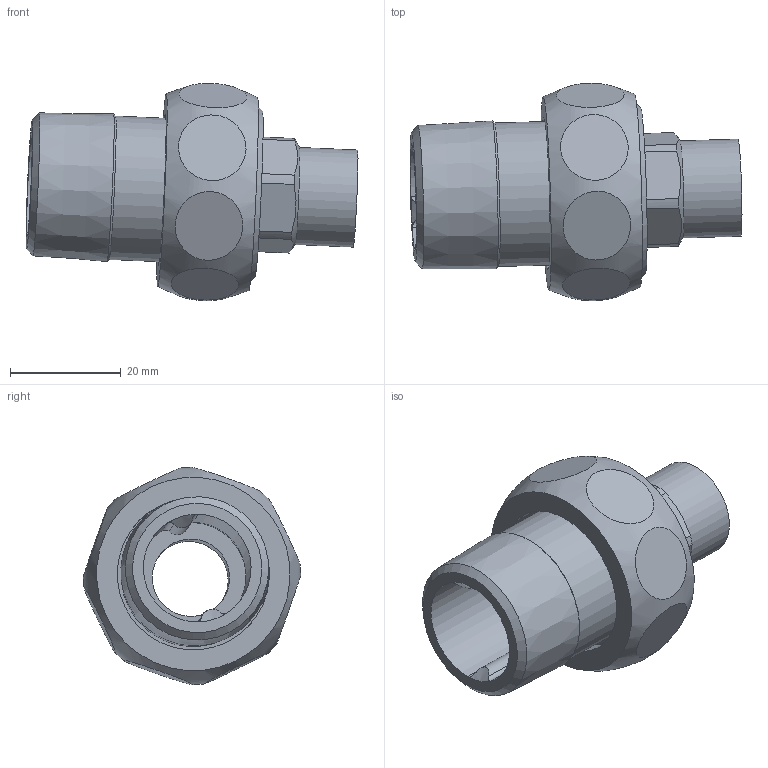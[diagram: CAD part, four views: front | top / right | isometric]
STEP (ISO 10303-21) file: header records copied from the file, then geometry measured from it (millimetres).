
FILE_DESCRIPTION((''),'2;1');
FILE_NAME('C:\Documents and Settings\pajchrowski\Desktop\14331_15-34.stp','2010-03-18T09:43:29',('pajchrowski'),(''),'Autodesk Inventor 2009','Autodesk Inventor 2009','');
FILE_SCHEMA(('AUTOMOTIVE_DESIGN { 1 0 10303 214 1 1 1 1 }'));
Length unit declared in the file: millimetre
Products named in the file (6): 14331_15-34; 14374_1; 14371_34-1(1); CZʌ1; 1DCU1; 14370_15-1(0)
Assembly tree (5 placements, depth 3):
  14331_15-34
    14374_1
    14371_34-1(1)
      CZʌ1
    1DCU1
    14370_15-1(0)
Bounding box: 60.01 x 39.27 x 39.26 mm (x, y, z)
Volume: 22068.3 mm3; surface area: 14943.1 mm2
Topology: 4 solids, 4 shells, 70 faces, 147 edges, 97 vertices
Faces by surface type: cylinder 31, plane 27, cone 11, bspline 1
Full cylindrical faces by diameter (mm): 14 x1, 15 x1, 17.6 x1, 20 x1, 26 x1, 27.5 x1, 29.5 x1, 30.291 x1, 33.241 x1
Entity records: 3378 total; most frequent: CARTESIAN_POINT 1779, DIRECTION 318, ORIENTED_EDGE 252, AXIS2_PLACEMENT_3D 142, EDGE_CURVE 126, EDGE_LOOP 108, VERTEX_POINT 94, FACE_OUTER_BOUND 70
